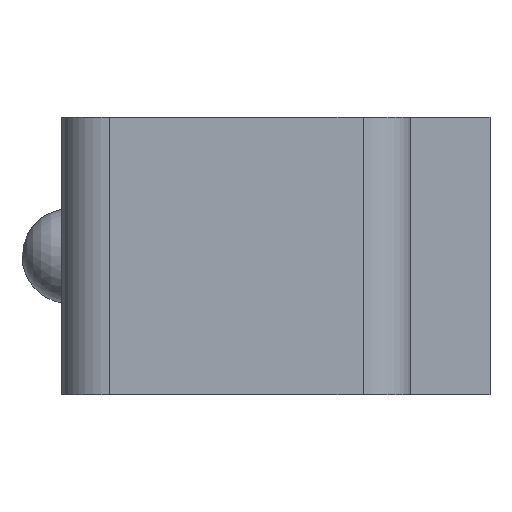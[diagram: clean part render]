
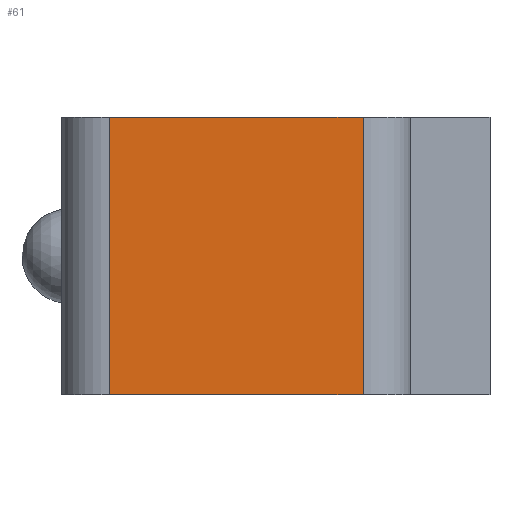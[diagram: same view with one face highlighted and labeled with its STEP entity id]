
A CAD part, left-side view. The second image highlights one B-rep face of the part: STEP entity #61.
In plain terms, the highlighted planar face has unit normal (-1, 0, 0).
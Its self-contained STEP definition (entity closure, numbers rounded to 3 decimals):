
#61 = ADVANCED_FACE( '', ( #130 ), #131, .F. );
#130 = FACE_OUTER_BOUND( '', #208, .T. );
#131 = PLANE( '', #209 );
#208 = EDGE_LOOP( '', ( #329, #330, #331, #332 ) );
#209 = AXIS2_PLACEMENT_3D( '', #333, #334, #335 );
#329 = ORIENTED_EDGE( '', *, *, #474, .T. );
#330 = ORIENTED_EDGE( '', *, *, #475, .F. );
#331 = ORIENTED_EDGE( '', *, *, #452, .F. );
#332 = ORIENTED_EDGE( '', *, *, #439, .T. );
#333 = CARTESIAN_POINT( '', ( 0., 7.6, 3.5 ) );
#334 = DIRECTION( '', ( 1., 0., 0. ) );
#335 = DIRECTION( '', ( 0., 0., -1. ) );
#439 = EDGE_CURVE( '', #514, #512, #515, .T. );
#452 = EDGE_CURVE( '', #514, #535, #536, .T. );
#474 = EDGE_CURVE( '', #512, #569, #570, .T. );
#475 = EDGE_CURVE( '', #535, #569, #571, .T. );
#512 = VERTEX_POINT( '', #617 );
#514 = VERTEX_POINT( '', #619 );
#515 = LINE( '', #620, #621 );
#535 = VERTEX_POINT( '', #649 );
#536 = LINE( '', #650, #651 );
#569 = VERTEX_POINT( '', #699 );
#570 = LINE( '', #700, #701 );
#571 = LINE( '', #702, #703 );
#617 = CARTESIAN_POINT( '', ( 0., 7.6, -3.5 ) );
#619 = CARTESIAN_POINT( '', ( 0., 7.6, 3.5 ) );
#620 = CARTESIAN_POINT( '', ( 0., 7.6, 3.5 ) );
#621 = VECTOR( '', #748, 1000. );
#649 = CARTESIAN_POINT( '', ( 0., 1.2, 3.5 ) );
#650 = CARTESIAN_POINT( '', ( 0., 7.6, 3.5 ) );
#651 = VECTOR( '', #760, 1000. );
#699 = CARTESIAN_POINT( '', ( 0., 1.2, -3.5 ) );
#700 = CARTESIAN_POINT( '', ( 0., 7.6, -3.5 ) );
#701 = VECTOR( '', #782, 1000. );
#702 = CARTESIAN_POINT( '', ( 0., 1.2, 3.5 ) );
#703 = VECTOR( '', #783, 1000. );
#748 = DIRECTION( '', ( 0., 0., -1. ) );
#760 = DIRECTION( '', ( 0., -1., 0. ) );
#782 = DIRECTION( '', ( 0., -1., 0. ) );
#783 = DIRECTION( '', ( 0., 0., -1. ) );
